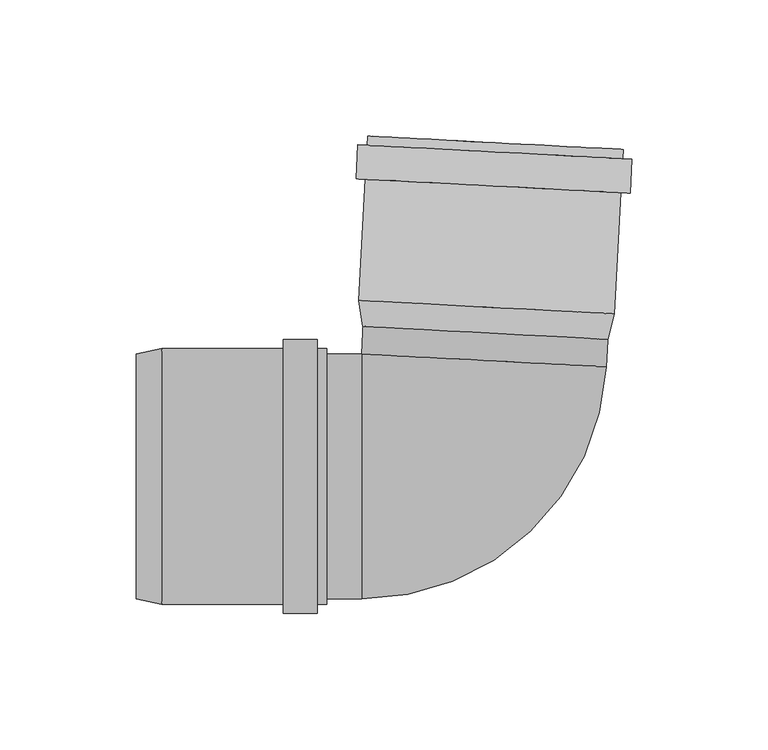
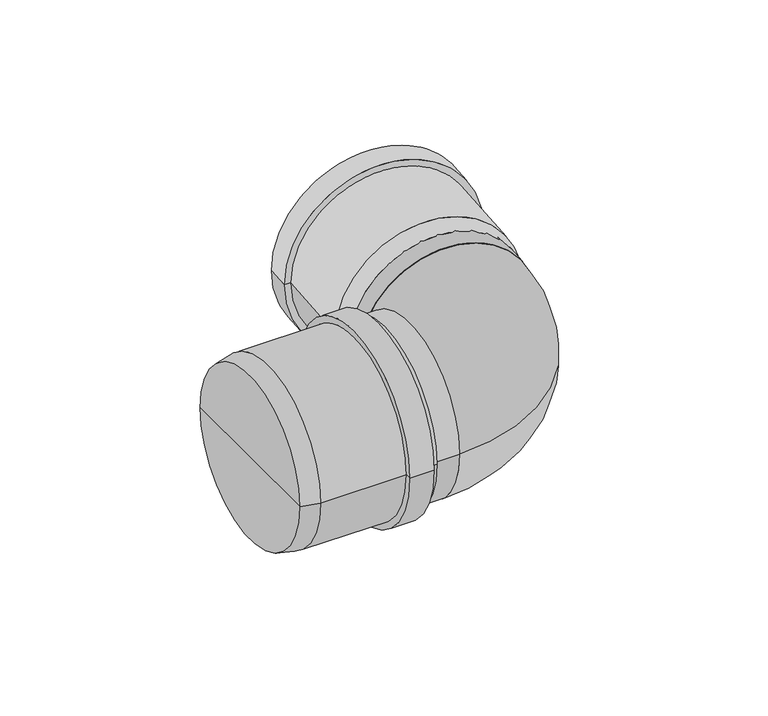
"""IFC4 building model written with IfcOpenShell, lengths in millimetres: pipe fitting geometry, pf_HTB : pf_HTB."""

from ifc_helpers import new_model, si_unit, point, frame, origin, origin_2d, place, context, project, spatial, polyline, circle_curve, ellipse_curve, trimmed, segment, composite_curve, outline, extrude, source, transform, mapped, element, save
from ifc_brep_helpers import plane_surface, cylinder_surface, revolved_surface, advanced_brep


def pipe_fitting_7d523068(model_context):
    return source(origin(), model_context, "Body", "SolidModel", [
        advanced_brep(
        [(47.7016676, 50.3725214, 0.0), (-42.1749906, 55.0827575, 0.0), (-43.6750581, 64.67441, 0.0), (50.1961182, 59.7548301, 0.0), (2.7633385, 52.7276394, 0.0), (53.3624436, 120.1719169, 0.0), (-40.5087327, 125.0914968, 0.0), (-38.5114736, 124.9868249, 0.0), (51.3651845, 120.2765888, 0.0), (53.1845013, 116.7765765, 0.0), (-40.686675, 121.6961564, 0.0), (56.5798417, 116.5986343, 0.0), (-44.0820154, 121.8740986, 0.0), (55.9256423, 104.1157651, 0.0), (-44.7362148, 109.3912295, 0.0), (52.5303019, 104.2937073, 0.0), (-41.3408744, 109.2132872, 0.0), (48.1988591, 59.859502, 0.0), (-41.677799, 64.569738, 0.0), (3.2605301, 62.21462, 0.0)],
        [
            (0, 1, circle_curve(frame((2.7633385, 52.7276394, 0.0), z_axis=(0.05233595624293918, 0.9986295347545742, 0.0), x_axis=(-0.9986295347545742, 0.05233595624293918, 0.0)), 45.0)),
            (1, 2),
            (2, 3, circle_curve(frame((3.2605301, 62.21462, 0.0), z_axis=(-0.05233595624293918, -0.9986295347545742, 0.0), x_axis=(-0.9986295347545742, 0.05233595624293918, 0.0)), 47.0)),
            (3, 0),
            (1, 0, circle_curve(frame((2.7633385, 52.7276394, 0.0), z_axis=(0.05233595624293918, 0.9986295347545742, 0.0), x_axis=(-0.9986295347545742, 0.05233595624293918, 0.0)), 45.0)),
            (3, 2, circle_curve(frame((3.2605301, 62.21462, 0.0), z_axis=(-0.05233595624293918, -0.9986295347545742, 0.0), x_axis=(-0.9986295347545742, 0.05233595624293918, 0.0)), 47.0)),
            (4, 1),
            (0, 4),
            (5, 6, circle_curve(frame((6.4268554, 122.6317069, 0.0), z_axis=(0.05233595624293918, 0.9986295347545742, 0.0), x_axis=(-0.9986295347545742, 0.05233595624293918, 0.0)), 47.0)),
            (6, 7),
            (7, 8, circle_curve(frame((6.4268554, 122.6317069, 0.0), z_axis=(-0.05233595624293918, -0.9986295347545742, 0.0), x_axis=(-0.9986295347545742, 0.05233595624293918, 0.0)), 45.0)),
            (8, 5),
            (6, 5, circle_curve(frame((6.4268554, 122.6317069, 0.0), z_axis=(0.05233595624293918, 0.9986295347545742, 0.0), x_axis=(-0.9986295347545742, 0.05233595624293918, 0.0)), 47.0)),
            (8, 7, circle_curve(frame((6.4268554, 122.6317069, 0.0), z_axis=(-0.05233595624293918, -0.9986295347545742, 0.0), x_axis=(-0.9986295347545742, 0.05233595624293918, 0.0)), 45.0)),
            (9, 10, circle_curve(frame((6.2489132, 119.2363664, 0.0), z_axis=(0.05233595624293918, 0.9986295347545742, 0.0), x_axis=(-0.9986295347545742, 0.05233595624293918, 0.0)), 47.0)),
            (10, 6),
            (5, 9),
            (10, 9, circle_curve(frame((6.2489132, 119.2363664, 0.0), z_axis=(0.05233595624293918, 0.9986295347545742, 0.0), x_axis=(-0.9986295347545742, 0.05233595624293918, 0.0)), 47.0)),
            (11, 12, circle_curve(frame((6.2489132, 119.2363664, 0.0), z_axis=(0.05233595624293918, 0.9986295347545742, 0.0), x_axis=(-0.9986295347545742, 0.05233595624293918, 0.0)), 50.4)),
            (12, 10),
            (9, 11),
            (12, 11, circle_curve(frame((6.2489132, 119.2363664, 0.0), z_axis=(0.05233595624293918, 0.9986295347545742, 0.0), x_axis=(-0.9986295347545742, 0.05233595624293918, 0.0)), 50.4)),
            (13, 14, circle_curve(frame((5.5947137, 106.7534973, 0.0), z_axis=(0.05233595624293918, 0.9986295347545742, 0.0), x_axis=(-0.9986295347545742, 0.05233595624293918, 0.0)), 50.4)),
            (14, 12),
            (11, 13),
            (14, 13, circle_curve(frame((5.5947137, 106.7534973, 0.0), z_axis=(0.05233595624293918, 0.9986295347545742, 0.0), x_axis=(-0.9986295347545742, 0.05233595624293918, 0.0)), 50.4)),
            (15, 16, circle_curve(frame((5.5947137, 106.7534973, 0.0), z_axis=(0.05233595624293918, 0.9986295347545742, 0.0), x_axis=(-0.9986295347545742, 0.05233595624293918, 0.0)), 47.0)),
            (16, 14),
            (13, 15),
            (16, 15, circle_curve(frame((5.5947137, 106.7534973, 0.0), z_axis=(0.05233595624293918, 0.9986295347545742, 0.0), x_axis=(-0.9986295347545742, 0.05233595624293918, 0.0)), 47.0)),
            (2, 16),
            (15, 3),
            (17, 18, circle_curve(frame((3.2605301, 62.21462, 0.0), z_axis=(0.05233595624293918, 0.9986295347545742, 0.0), x_axis=(-0.9986295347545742, 0.05233595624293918, 0.0)), 45.0)),
            (18, 19),
            (19, 17),
            (18, 17, circle_curve(frame((3.2605301, 62.21462, 0.0), z_axis=(0.05233595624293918, 0.9986295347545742, 0.0), x_axis=(-0.9986295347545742, 0.05233595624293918, 0.0)), 45.0)),
            (7, 18),
            (17, 8),
        ],
        [
            revolved_surface(polyline([(-43.6750581, 64.67441, 0.0), (-42.1749906, 55.0827575, 0.0)]), (2.7633385, 52.7276394, 0.0), (-0.05233595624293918, -0.9986295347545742, 0.0)),
            plane_surface(frame((2.7633385, 52.7276394, 0.0), z_axis=(-0.05233595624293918, -0.9986295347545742, 0.0), x_axis=(-0.9986295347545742, 0.05233595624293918, 0.0))),
            plane_surface(frame((6.4268554, 122.6317069, 0.0), z_axis=(0.05233595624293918, 0.9986295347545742, 0.0), x_axis=(-0.9986295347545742, 0.05233595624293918, 0.0))),
            cylinder_surface(frame((2.7633385, 52.7276394, 0.0), z_axis=(-0.05233595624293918, -0.9986295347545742, 0.0), x_axis=(-0.9986295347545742, 0.05233595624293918, 0.0)), 47.0),
            plane_surface(frame((6.2489132, 119.2363664, 0.0), z_axis=(0.05233595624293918, 0.9986295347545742, 0.0), x_axis=(-0.9986295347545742, 0.05233595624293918, 0.0))),
            cylinder_surface(frame((2.7633385, 52.7276394, 0.0), z_axis=(-0.05233595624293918, -0.9986295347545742, 0.0), x_axis=(-0.9986295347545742, 0.05233595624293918, 0.0)), 50.4),
            plane_surface(frame((5.5947137, 106.7534973, 0.0), z_axis=(-0.05233595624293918, -0.9986295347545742, 0.0), x_axis=(-0.9986295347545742, 0.05233595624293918, 0.0))),
            plane_surface(frame((3.2605301, 62.21462, 0.0), z_axis=(0.05233595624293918, 0.9986295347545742, 0.0), x_axis=(-0.9986295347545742, 0.05233595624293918, 0.0))),
            revolved_surface(polyline([(-41.677798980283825, 64.56973799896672, 0.0), (-38.51147362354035, 124.98682492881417, 0.0)]), (2.7633385, 52.7276394, 0.0), (-0.05233595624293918, -0.9986295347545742, 0.0)),
        ],
        [
            (0, [[1, 2, 3, 4]]),
            (0, [[5, -4, 6, -2]]),
            (1, [[7, -1, 8]]),
            (1, [[-8, -5, -7]]),
            (2, [[9, 10, 11, 12]]),
            (2, [[13, -12, 14, -10]]),
            (3, [[15, 16, -9, 17]]),
            (3, [[18, -17, -13, -16]]),
            (4, [[19, 20, -15, 21]]),
            (4, [[22, -21, -18, -20]]),
            (5, [[23, 24, -19, 25]]),
            (5, [[26, -25, -22, -24]]),
            (6, [[27, 28, -23, 29]]),
            (6, [[30, -29, -26, -28]]),
            (3, [[-3, 31, -27, 32]]),
            (3, [[-6, -32, -30, -31]]),
            (7, [[33, 34, 35]]),
            (7, [[36, -35, -34]]),
            (8, [[-11, 37, -33, 38]]),
            (8, [[-14, -38, -36, -37]]),
        ],
    ),
        advanced_brep(
        [(-125.5, -45.0, 0.0), (-125.5, 45.0, 0.0), (-116.0, 47.0, 0.0), (-116.0, -47.0, 0.0), (-125.5, 0.0, 0.0), (-55.5, -47.0, 0.0), (-55.5, 47.0, 0.0), (-55.5, 45.0, 0.0), (-55.5, -45.0, 0.0), (-58.9, -47.0, 0.0), (-58.9, 47.0, 0.0), (-58.9, -50.4, 0.0), (-58.9, 50.4, 0.0), (-71.4, -50.4, 0.0), (-71.4, 50.4, 0.0), (-71.4, -47.0, 0.0), (-71.4, 47.0, 0.0), (-116.0, -45.0, 0.0), (-116.0, 45.0, 0.0), (-116.0, 0.0, 0.0)],
        [
            (0, 1, circle_curve(frame((-125.5, 0.0, 0.0), z_axis=(1.0, 0.0, 0.0), x_axis=(0.0, 1.0, 0.0)), 45.0)),
            (1, 2),
            (2, 3, circle_curve(frame((-116.0, 0.0, 0.0), z_axis=(-1.0, 0.0, 0.0), x_axis=(0.0, 1.0, 0.0)), 47.0)),
            (3, 0),
            (1, 0, circle_curve(frame((-125.5, 0.0, 0.0), z_axis=(1.0, 0.0, 0.0), x_axis=(0.0, 1.0, 0.0)), 45.0)),
            (3, 2, circle_curve(frame((-116.0, 0.0, 0.0), z_axis=(-1.0, 0.0, 0.0), x_axis=(0.0, 1.0, 0.0)), 47.0)),
            (4, 1),
            (0, 4),
            (5, 6, circle_curve(frame((-55.5, 0.0, 0.0), z_axis=(1.0, 0.0, 0.0), x_axis=(0.0, 1.0, 0.0)), 47.0)),
            (6, 7),
            (7, 8, circle_curve(frame((-55.5, 0.0, 0.0), z_axis=(-1.0, 0.0, 0.0), x_axis=(0.0, 1.0, 0.0)), 45.0)),
            (8, 5),
            (6, 5, circle_curve(frame((-55.5, 0.0, 0.0), z_axis=(1.0, 0.0, 0.0), x_axis=(0.0, 1.0, 0.0)), 47.0)),
            (8, 7, circle_curve(frame((-55.5, 0.0, 0.0), z_axis=(-1.0, 0.0, 0.0), x_axis=(0.0, 1.0, 0.0)), 45.0)),
            (9, 10, circle_curve(frame((-58.9, 0.0, 0.0), z_axis=(1.0, 0.0, 0.0), x_axis=(0.0, 1.0, 0.0)), 47.0)),
            (10, 6),
            (5, 9),
            (10, 9, circle_curve(frame((-58.9, 0.0, 0.0), z_axis=(1.0, 0.0, 0.0), x_axis=(0.0, 1.0, 0.0)), 47.0)),
            (11, 12, circle_curve(frame((-58.9, 0.0, 0.0), z_axis=(1.0, 0.0, 0.0), x_axis=(0.0, 1.0, 0.0)), 50.4)),
            (12, 10),
            (9, 11),
            (12, 11, circle_curve(frame((-58.9, 0.0, 0.0), z_axis=(1.0, 0.0, 0.0), x_axis=(0.0, 1.0, 0.0)), 50.4)),
            (13, 14, circle_curve(frame((-71.4, 0.0, 0.0), z_axis=(1.0, 0.0, 0.0), x_axis=(0.0, 1.0, 0.0)), 50.4)),
            (14, 12),
            (11, 13),
            (14, 13, circle_curve(frame((-71.4, 0.0, 0.0), z_axis=(1.0, 0.0, 0.0), x_axis=(0.0, 1.0, 0.0)), 50.4)),
            (15, 16, circle_curve(frame((-71.4, 0.0, 0.0), z_axis=(1.0, 0.0, 0.0), x_axis=(0.0, 1.0, 0.0)), 47.0)),
            (16, 14),
            (13, 15),
            (16, 15, circle_curve(frame((-71.4, 0.0, 0.0), z_axis=(1.0, 0.0, 0.0), x_axis=(0.0, 1.0, 0.0)), 47.0)),
            (2, 16),
            (15, 3),
            (17, 18, circle_curve(frame((-116.0, 0.0, 0.0), z_axis=(1.0, 0.0, 0.0), x_axis=(0.0, 1.0, 0.0)), 45.0)),
            (18, 19),
            (19, 17),
            (18, 17, circle_curve(frame((-116.0, 0.0, 0.0), z_axis=(1.0, 0.0, 0.0), x_axis=(0.0, 1.0, 0.0)), 45.0)),
            (7, 18),
            (17, 8),
        ],
        [
            revolved_surface(polyline([(-116.0, 47.0, 0.0), (-125.5, 45.0, 0.0)]), (-125.5, 0.0, 0.0), (-1.0, 0.0, 0.0)),
            plane_surface(frame((-125.5, 0.0, 0.0), z_axis=(-1.0, 0.0, 0.0), x_axis=(0.0, 1.0, 0.0))),
            plane_surface(frame((-55.5, 0.0, 0.0), z_axis=(1.0, 0.0, 0.0), x_axis=(0.0, 1.0, 0.0))),
            cylinder_surface(frame((-125.5, 0.0, 0.0), z_axis=(-1.0, 0.0, 0.0), x_axis=(0.0, 1.0, 0.0)), 47.0),
            plane_surface(frame((-58.9, 0.0, 0.0), z_axis=(1.0, 0.0, 0.0), x_axis=(0.0, 1.0, 0.0))),
            cylinder_surface(frame((-125.5, 0.0, 0.0), z_axis=(-1.0, 0.0, 0.0), x_axis=(0.0, 1.0, 0.0)), 50.4),
            plane_surface(frame((-71.4, 0.0, 0.0), z_axis=(-1.0, 0.0, 0.0), x_axis=(0.0, 1.0, 0.0))),
            plane_surface(frame((-116.0, 0.0, 0.0), z_axis=(1.0, 0.0, 0.0), x_axis=(0.0, 1.0, 0.0))),
            revolved_surface(polyline([(-116.0, 45.0, 0.0), (-55.5, 45.0, 0.0)]), (-125.5, 0.0, 0.0), (-1.0, 0.0, 0.0)),
        ],
        [
            (0, [[1, 2, 3, 4]]),
            (0, [[5, -4, 6, -2]]),
            (1, [[7, -1, 8]]),
            (1, [[-8, -5, -7]]),
            (2, [[9, 10, 11, 12]]),
            (2, [[13, -12, 14, -10]]),
            (3, [[15, 16, -9, 17]]),
            (3, [[18, -17, -13, -16]]),
            (4, [[19, 20, -15, 21]]),
            (4, [[22, -21, -18, -20]]),
            (5, [[23, 24, -19, 25]]),
            (5, [[26, -25, -22, -24]]),
            (6, [[27, 28, -23, 29]]),
            (6, [[30, -29, -26, -28]]),
            (3, [[-3, 31, -27, 32]]),
            (3, [[-6, -32, -30, -31]]),
            (7, [[33, 34, 35]]),
            (7, [[36, -35, -34]]),
            (8, [[-11, 37, -33, 38]]),
            (8, [[-14, -38, -36, -37]]),
        ],
    ),
        extrude(outline(composite_curve([segment(trimmed(circle_curve(origin_2d(), 45.0), [point((0.0, -45.0))], [point((0.0, 44.9999999))], False, "CARTESIAN"), True, "CONTINUOUS"), segment(trimmed(circle_curve(origin_2d(), 45.0), [point((0.0, 44.9999999))], [point((0.0, -45.0))], False, "CARTESIAN"), True, "CONTINUOUS")], self_intersect=False)), frame((2.2349236, 42.644882, 0.0), z_axis=(0.05233595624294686, 0.9986295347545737, 0.0), x_axis=(0.0, 0.0, 1.0)), (0.0, 0.0, 1.0), 19.5965945),
        extrude(outline(composite_curve([segment(trimmed(circle_curve(origin_2d(), 45.0), [point((-45.0, 0.0))], [point((45.0, 0.0))], False, "CARTESIAN"), True, "CONTINUOUS"), segment(trimmed(circle_curve(origin_2d(), 45.0), [point((45.0, 0.0))], [point((-45.0, 0.0))], False, "CARTESIAN"), True, "CONTINUOUS")], self_intersect=False)), frame((-116.0, 0.0, 0.0), z_axis=(1.0, 0.0, 0.0), x_axis=(0.0, 1.0, 0.0)), (0.0, 0.0, 1.0), 73.2965945),
        advanced_brep(
        [(-42.7034055, -45.0, 0.0), (-42.7034055, 45.0, 0.0), (47.1732526, 40.2897639, 0.0)],
        [
            (0, 1, circle_curve(frame((-42.7034055, 0.0, 0.0), z_axis=(-1.0, 0.0, 0.0), x_axis=(0.0, 1.0, 0.0)), 45.0)),
            (1, 0, circle_curve(frame((-42.7034055, 0.0, 0.0), z_axis=(-1.0, 0.0, 0.0), x_axis=(0.0, 1.0, 0.0)), 45.0)),
            (2, 1, circle_curve(frame((2.2349236, 42.644882, 0.0), z_axis=(0.05233595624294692, 0.9986295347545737, 0.0), x_axis=(-0.9986295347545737, 0.05233595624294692, 0.0)), 45.0)),
            (1, 2, circle_curve(frame((2.2349236, 42.644882, 0.0), z_axis=(0.05233595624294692, 0.9986295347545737, 0.0), x_axis=(-0.9986295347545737, 0.05233595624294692, 0.0)), 45.0)),
            (2, 0, circle_curve(frame((-42.7034055, 45.0, 0.0), z_axis=(0.0, 0.0, -1.0), x_axis=(0.0, -1.0, 0.0)), 90.0)),
        ],
        [
            plane_surface(frame((-42.7034055, 45.0, -14.8), z_axis=(-1.0, 0.0, 0.0), x_axis=(0.0, -1.0, 0.0))),
            plane_surface(frame((-42.7034055, 45.0, -14.8), z_axis=(0.052335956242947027, 0.9986295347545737, 0.0), x_axis=(0.9986295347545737, -0.052335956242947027, 0.0))),
            revolved_surface(trimmed(ellipse_curve(frame((-42.7034055, 0.0, 0.0), z_axis=(1.0, 0.0, 0.0), x_axis=(0.0, 1.0, 0.0)), 45.0, 45.0), [point((-42.7034055, -45.0, 0.0))], [point((-42.7034055, 45.0, 0.0))], True, "CARTESIAN"), (-42.7034055, 45.0, -14.8), (0.0, 0.0, -1.0)),
            revolved_surface(trimmed(ellipse_curve(frame((-42.7034055, 0.0, 0.0), z_axis=(1.0, 0.0, 0.0), x_axis=(0.0, 1.0, 0.0)), 45.0, 45.0), [point((-42.7034055, 45.0, 0.0))], [point((-42.7034055, -45.0, 0.0))], True, "CARTESIAN"), (-42.7034055, 45.0, -14.8), (0.0, 0.0, -1.0)),
        ],
        [
            (0, [[1, 2]]),
            (1, [[3, 4]]),
            (2, [[5, -2, -3]]),
            (3, [[-1, -5, -4]]),
        ],
    ),
    ])


if __name__ == "__main__":
    model = new_model("IFC4")
    model_context = context("Model", 3, world=origin())
    ifc_project = project(units=[si_unit("LENGTHUNIT", "METRE", prefix="MILLI")], contexts=[model_context])
    site = spatial("IfcSite", under=ifc_project)
    building = spatial("IfcBuilding", under=site)
    placement = place(None, origin())
    pipe_fitting_shape = pipe_fitting_7d523068(model_context)
    element("IfcPipeFitting", 1, ObjectType="pf_HTB : pf_HTB", at=placement, inside=building, context=model_context, shape_type="MappedRepresentation", body=[
        mapped(pipe_fitting_shape, transform((0.0, 0.0, 0.0), x_axis=(1.0, 0.0, 0.0), y_axis=(0.0, 1.0, 0.0), z_axis=(0.0, 0.0, 1.0))),
    ])
    save(model, "model.ifc")
